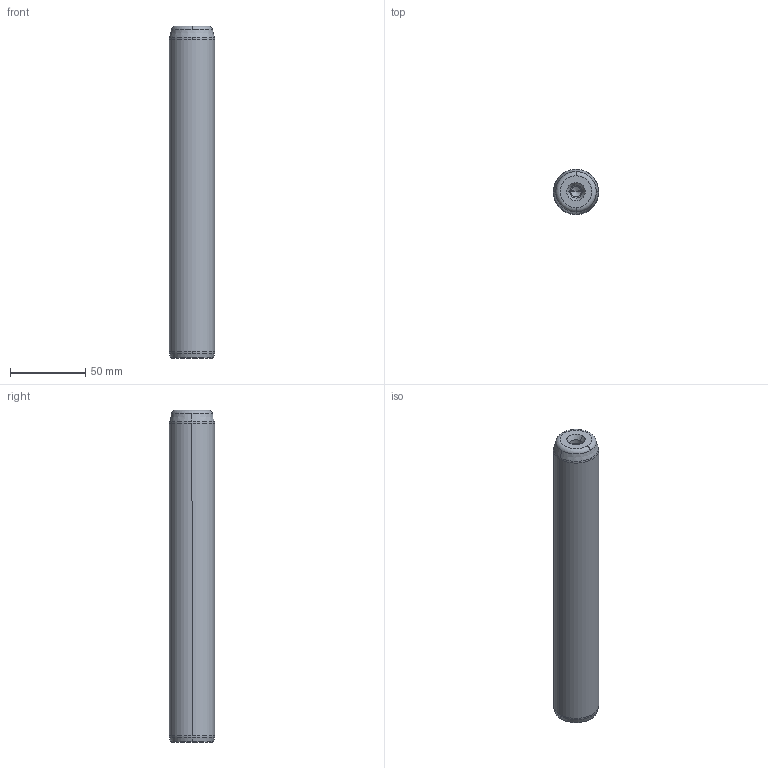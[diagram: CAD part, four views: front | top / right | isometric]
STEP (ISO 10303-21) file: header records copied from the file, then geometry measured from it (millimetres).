
FILE_DESCRIPTION((''),'2;1');
FILE_NAME('P10_030_220.stp','2008-12-23T15:00:07',(''),(''),'Mechanical Desktop 2009','Mechanical Desktop 2009',', , ');
FILE_SCHEMA(('CONFIG_CONTROL_DESIGN'));
Length unit declared in the file: millimetre
Products named in the file (5): Product; ProductAA; blmdl1; ProductA; blmdl1A
Assembly tree (2 placements, depth 3):
  Product
    ProductAA
      blmdl1
  ProductA
  blmdl1A
Bounding box: 30 x 30 x 220 mm (x, y, z)
Volume: 153355 mm3; surface area: 22317.2 mm2
Topology: 1 solids, 1 shells, 26 faces, 66 edges, 41 vertices
Faces by surface type: cone 10, torus 8, cylinder 6, plane 2
Entity records: 1012 total; most frequent: DIRECTION 170, CARTESIAN_POINT 134, ORIENTED_EDGE 128, AXIS2_PLACEMENT_3D 77, EDGE_CURVE 64, CIRCLE 48, VERTEX_POINT 41, EDGE_LOOP 27
